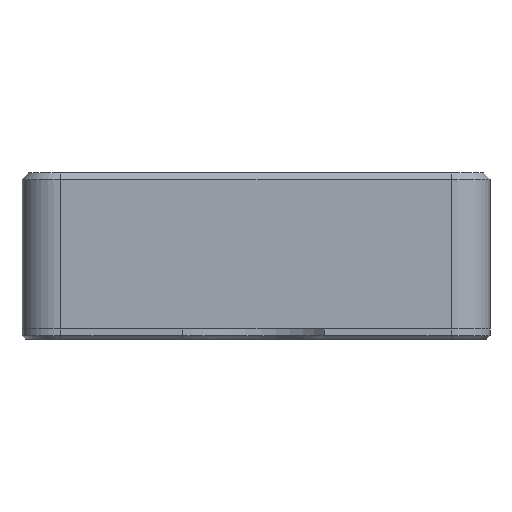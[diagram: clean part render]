
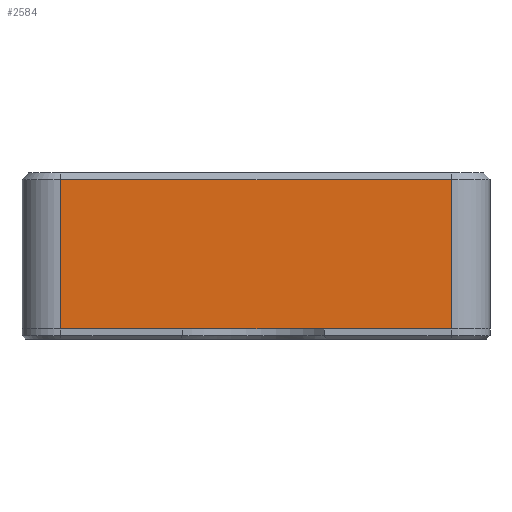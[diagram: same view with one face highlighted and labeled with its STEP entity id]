
A CAD part, left-side view. The second image highlights one B-rep face of the part: STEP entity #2584.
In plain terms, the highlighted planar face has unit normal (-1, 0, 0).
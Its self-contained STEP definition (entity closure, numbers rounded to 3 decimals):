
#136=PLANE('',#2753);
#237=FACE_OUTER_BOUND('',#392,.T.);
#392=EDGE_LOOP('',(#1935,#1936,#1937,#1938));
#519=LINE('',#3708,#761);
#576=LINE('',#4270,#818);
#582=LINE('',#4287,#824);
#583=LINE('',#4289,#825);
#761=VECTOR('',#2985,10.);
#818=VECTOR('',#3092,10.);
#824=VECTOR('',#3116,10.);
#825=VECTOR('',#3119,10.);
#1103=VERTEX_POINT('',#3705);
#1104=VERTEX_POINT('',#3707);
#1161=VERTEX_POINT('',#4264);
#1162=VERTEX_POINT('',#4268);
#1350=EDGE_CURVE('',#1104,#1103,#519,.T.);
#1444=EDGE_CURVE('',#1161,#1162,#576,.T.);
#1453=EDGE_CURVE('',#1103,#1162,#582,.T.);
#1454=EDGE_CURVE('',#1104,#1161,#583,.T.);
#1935=ORIENTED_EDGE('',*,*,#1444,.F.);
#1936=ORIENTED_EDGE('',*,*,#1454,.F.);
#1937=ORIENTED_EDGE('',*,*,#1350,.T.);
#1938=ORIENTED_EDGE('',*,*,#1453,.T.);
#2584=ADVANCED_FACE('',(#237),#136,.T.);
#2753=AXIS2_PLACEMENT_3D('',#4288,#3117,#3118);
#2985=DIRECTION('',(0.,-1.,0.));
#3092=DIRECTION('',(0.,-1.,0.));
#3116=DIRECTION('',(0.,0.,1.));
#3117=DIRECTION('center_axis',(-1.,0.,0.));
#3118=DIRECTION('ref_axis',(0.,-1.,0.));
#3119=DIRECTION('',(0.,0.,1.));
#3705=CARTESIAN_POINT('',(-47.6,-29.15,0.));
#3707=CARTESIAN_POINT('',(-47.6,29.15,0.));
#3708=CARTESIAN_POINT('',(-47.6,29.15,0.));
#4264=CARTESIAN_POINT('',(-47.6,29.15,22.3));
#4268=CARTESIAN_POINT('',(-47.6,-29.15,22.3));
#4270=CARTESIAN_POINT('',(-47.6,14.575,22.3));
#4287=CARTESIAN_POINT('',(-47.6,-29.15,0.));
#4288=CARTESIAN_POINT('Origin',(-47.6,29.15,0.));
#4289=CARTESIAN_POINT('',(-47.6,29.15,0.));
